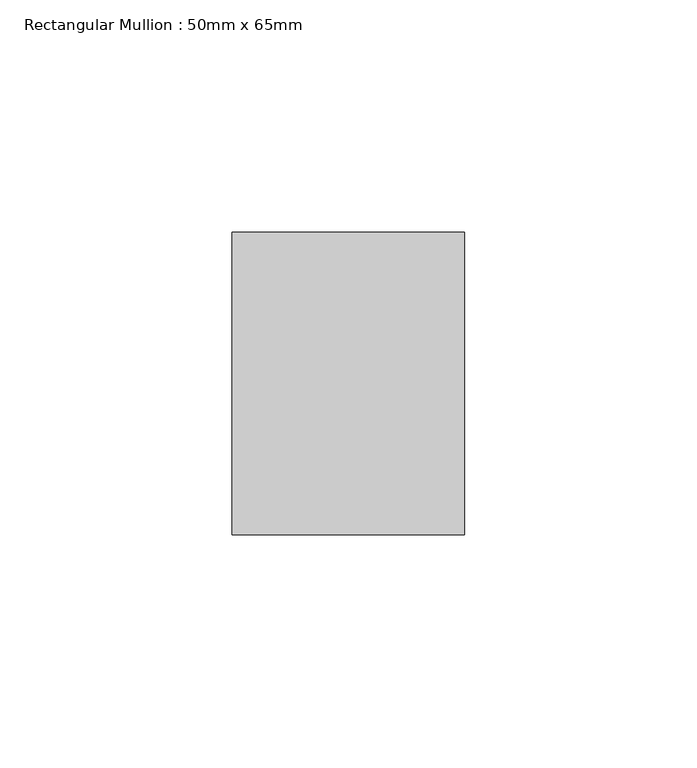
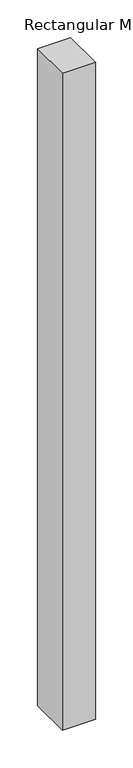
"""IFC4 building model written with IfcOpenShell, lengths in millimetres: member geometry, Rectangular Mullion : 50mm x 65mm."""

from ifc_helpers import new_model, si_unit, frame, origin, place, context, project, spatial, polyline, outline, extrude, source, transform, mapped, element, save


def rectangular_mullion_50mm_x_65mm_8040be0b(model_context):
    return source(origin(), model_context, "Body", "SweptSolid", [
        extrude(outline(polyline([(0.0, 32.5), (0.0, -32.5), (-50.0, -32.5), (-50.0, 32.5), (0.0, 32.5)])), frame((0.0, 0.0, -1055.7706876), z_axis=(0.0, 0.0, 1.0), x_axis=(1.0, 0.0, 0.0)), (0.0, 0.0, 1.0), 1055.7706876),
    ])


if __name__ == "__main__":
    model = new_model("IFC4")
    model_context = context("Model", 3, world=origin())
    ifc_project = project(units=[si_unit("LENGTHUNIT", "METRE", prefix="MILLI")], contexts=[model_context])
    site = spatial("IfcSite", under=ifc_project)
    building = spatial("IfcBuilding", under=site)
    placement = place(None, origin())
    rectangular_mullion_50mm_x_65mm_shape = rectangular_mullion_50mm_x_65mm_8040be0b(model_context)
    element("IfcMember", 1, ObjectType="Rectangular Mullion : 50mm x 65mm", at=placement, inside=building, context=model_context, shape_type="MappedRepresentation", body=[
        mapped(rectangular_mullion_50mm_x_65mm_shape, transform((0.0, 0.0, 0.0), x_axis=(1.0, 0.0, 0.0), y_axis=(0.0, 1.0, 0.0), z_axis=(0.0, 0.0, 1.0))),
    ])
    save(model, "model.ifc")
